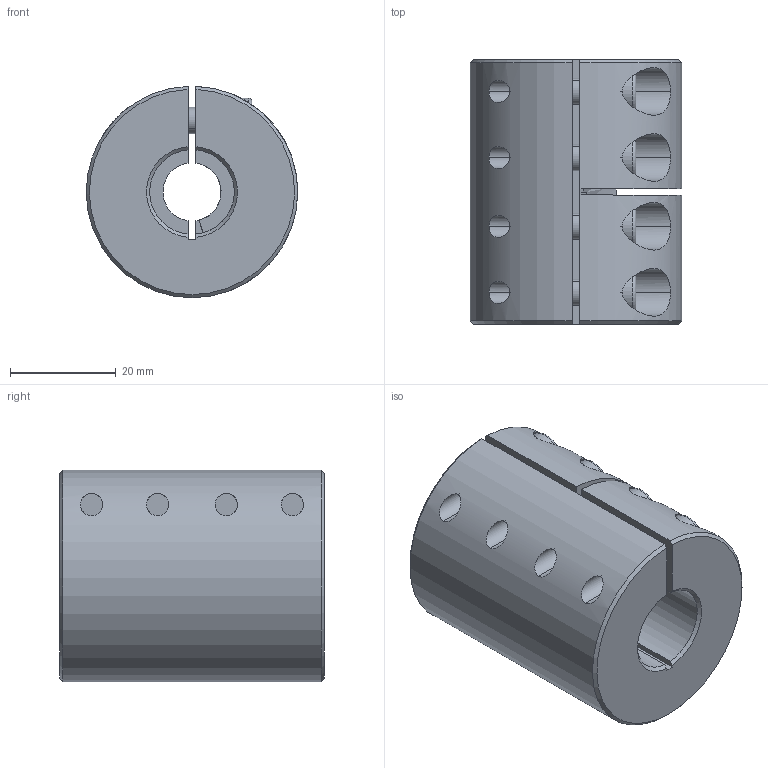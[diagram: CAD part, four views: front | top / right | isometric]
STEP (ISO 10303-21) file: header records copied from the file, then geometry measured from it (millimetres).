
FILE_DESCRIPTION (( 'STEP AP214' ), '1' );
FILE_NAME ('LL-B-D40L50-11-16½¨Ä£.STEP', '2022-07-22T00:20:03', ( '' ), ( '' ), 'SwSTEP 2.0', 'SolidWorks 2022', '' );
FILE_SCHEMA (( 'AUTOMOTIVE_DESIGN' ));
Length unit declared in the file: millimetre
Products named in the file (1): LL-B-D40L50-11-16膘耀
Bounding box: 40 x 50 x 39.99 mm (x, y, z)
Volume: 52205.1 mm3; surface area: 15473.1 mm2
Topology: 1 solids, 1 shells, 182 faces, 463 edges, 291 vertices
Faces by surface type: plane 88, cylinder 71, cone 15, torus 8
Entity records: 6015 total; most frequent: CARTESIAN_POINT 1525, DIRECTION 971, ORIENTED_EDGE 910, EDGE_CURVE 455, AXIS2_PLACEMENT_3D 377, VERTEX_POINT 291, LINE 217, VECTOR 217
